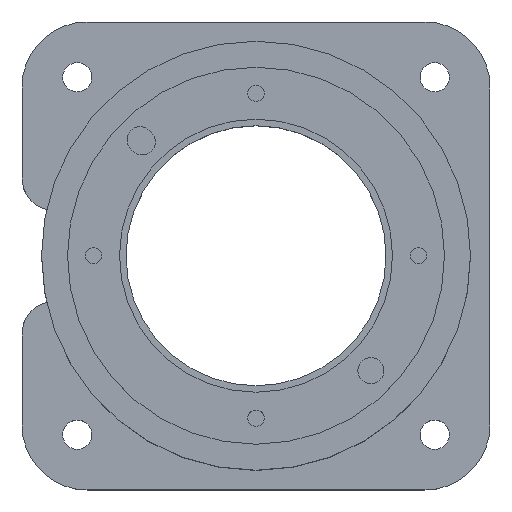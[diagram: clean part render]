
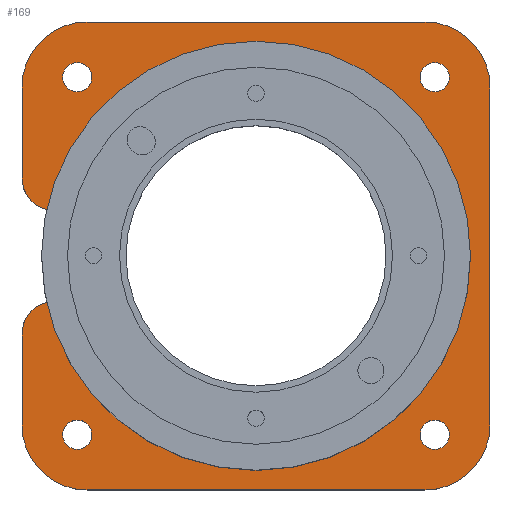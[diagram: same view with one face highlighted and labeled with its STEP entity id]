
A CAD part, top view. The second image highlights one B-rep face of the part: STEP entity #169.
In plain terms, the highlighted planar face has unit normal (0, 0, 1).
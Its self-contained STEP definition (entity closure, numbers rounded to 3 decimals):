
#169=ADVANCED_FACE('',(#318,#319,#320,#321,#322),#246,.F.);
#246=PLANE('',#1367);
#318=FACE_BOUND('',#445,.T.);
#319=FACE_BOUND('',#446,.T.);
#320=FACE_BOUND('',#447,.T.);
#321=FACE_BOUND('',#448,.T.);
#322=FACE_BOUND('',#449,.T.);
#445=EDGE_LOOP('',(#742));
#446=EDGE_LOOP('',(#743));
#447=EDGE_LOOP('',(#744));
#448=EDGE_LOOP('',(#745));
#449=EDGE_LOOP('',(#746,#747,#748,#749,#750,#751,#752,#753,#754,#755,#756,
#757));
#549=LINE('',#2145,#597);
#566=LINE('',#2269,#614);
#567=LINE('',#2273,#615);
#568=LINE('',#2277,#616);
#569=LINE('',#2281,#617);
#597=VECTOR('',#1479,1.);
#614=VECTOR('',#1626,1.);
#615=VECTOR('',#1629,1.);
#616=VECTOR('',#1632,1.);
#617=VECTOR('',#1635,1.);
#742=ORIENTED_EDGE('',*,*,#1116,.F.);
#743=ORIENTED_EDGE('',*,*,#1117,.F.);
#744=ORIENTED_EDGE('',*,*,#1118,.F.);
#745=ORIENTED_EDGE('',*,*,#1119,.F.);
#746=ORIENTED_EDGE('',*,*,#1074,.T.);
#747=ORIENTED_EDGE('',*,*,#1120,.T.);
#748=ORIENTED_EDGE('',*,*,#1121,.F.);
#749=ORIENTED_EDGE('',*,*,#1122,.F.);
#750=ORIENTED_EDGE('',*,*,#1123,.F.);
#751=ORIENTED_EDGE('',*,*,#1124,.F.);
#752=ORIENTED_EDGE('',*,*,#1125,.F.);
#753=ORIENTED_EDGE('',*,*,#1126,.F.);
#754=ORIENTED_EDGE('',*,*,#1127,.F.);
#755=ORIENTED_EDGE('',*,*,#1128,.F.);
#756=ORIENTED_EDGE('',*,*,#1070,.F.);
#757=ORIENTED_EDGE('',*,*,#1129,.T.);
#953=VERTEX_POINT('',#2144);
#954=VERTEX_POINT('',#2146);
#956=VERTEX_POINT('',#2152);
#957=VERTEX_POINT('',#2154);
#991=VERTEX_POINT('',#2260);
#992=VERTEX_POINT('',#2262);
#993=VERTEX_POINT('',#2264);
#994=VERTEX_POINT('',#2266);
#995=VERTEX_POINT('',#2268);
#996=VERTEX_POINT('',#2270);
#997=VERTEX_POINT('',#2272);
#998=VERTEX_POINT('',#2274);
#999=VERTEX_POINT('',#2276);
#1000=VERTEX_POINT('',#2278);
#1001=VERTEX_POINT('',#2280);
#1002=VERTEX_POINT('',#2282);
#1070=EDGE_CURVE('',#953,#954,#549,.T.);
#1074=EDGE_CURVE('',#957,#956,#1207,.T.);
#1116=EDGE_CURVE('',#991,#991,#1235,.T.);
#1117=EDGE_CURVE('',#992,#992,#1236,.T.);
#1118=EDGE_CURVE('',#993,#993,#1237,.T.);
#1119=EDGE_CURVE('',#994,#994,#1238,.T.);
#1120=EDGE_CURVE('',#956,#995,#1239,.T.);
#1121=EDGE_CURVE('',#996,#995,#566,.T.);
#1122=EDGE_CURVE('',#997,#996,#1240,.T.);
#1123=EDGE_CURVE('',#998,#997,#567,.T.);
#1124=EDGE_CURVE('',#999,#998,#1241,.T.);
#1125=EDGE_CURVE('',#1000,#999,#568,.T.);
#1126=EDGE_CURVE('',#1001,#1000,#1242,.T.);
#1127=EDGE_CURVE('',#1002,#1001,#569,.T.);
#1128=EDGE_CURVE('',#954,#1002,#1243,.T.);
#1129=EDGE_CURVE('',#953,#957,#1244,.T.);
#1207=CIRCLE('',#1299,32.75);
#1235=CIRCLE('',#1357,2.25);
#1236=CIRCLE('',#1358,2.25);
#1237=CIRCLE('',#1359,2.25);
#1238=CIRCLE('',#1360,2.25);
#1239=CIRCLE('',#1361,5.);
#1240=CIRCLE('',#1362,10.);
#1241=CIRCLE('',#1363,10.);
#1242=CIRCLE('',#1364,10.);
#1243=CIRCLE('',#1365,10.);
#1244=CIRCLE('',#1366,5.);
#1299=AXIS2_PLACEMENT_3D('',#2153,#1486,#1487);
#1357=AXIS2_PLACEMENT_3D('',#2259,#1616,#1617);
#1358=AXIS2_PLACEMENT_3D('',#2261,#1618,#1619);
#1359=AXIS2_PLACEMENT_3D('',#2263,#1620,#1621);
#1360=AXIS2_PLACEMENT_3D('',#2265,#1622,#1623);
#1361=AXIS2_PLACEMENT_3D('',#2267,#1624,#1625);
#1362=AXIS2_PLACEMENT_3D('',#2271,#1627,#1628);
#1363=AXIS2_PLACEMENT_3D('',#2275,#1630,#1631);
#1364=AXIS2_PLACEMENT_3D('',#2279,#1633,#1634);
#1365=AXIS2_PLACEMENT_3D('',#2283,#1636,#1637);
#1366=AXIS2_PLACEMENT_3D('',#2284,#1638,#1639);
#1367=AXIS2_PLACEMENT_3D('',#2285,#1640,#1641);
#1479=DIRECTION('',(0.,1.,0.));
#1486=DIRECTION('',(0.,0.,-1.));
#1487=DIRECTION('',(-1.,0.,0.));
#1616=DIRECTION('',(0.,0.,1.));
#1617=DIRECTION('',(1.,0.,0.));
#1618=DIRECTION('',(0.,0.,1.));
#1619=DIRECTION('',(1.,0.,0.));
#1620=DIRECTION('',(0.,0.,1.));
#1621=DIRECTION('',(1.,0.,0.));
#1622=DIRECTION('',(0.,0.,1.));
#1623=DIRECTION('',(1.,0.,0.));
#1624=DIRECTION('',(0.,0.,1.));
#1625=DIRECTION('',(-1.,0.,0.));
#1626=DIRECTION('',(0.,1.,0.));
#1627=DIRECTION('',(0.,0.,-1.));
#1628=DIRECTION('',(-1.,0.,0.));
#1629=DIRECTION('',(-1.,0.,0.));
#1630=DIRECTION('',(0.,0.,-1.));
#1631=DIRECTION('',(-1.,0.,0.));
#1632=DIRECTION('',(0.,-1.,0.));
#1633=DIRECTION('',(0.,0.,-1.));
#1634=DIRECTION('',(-1.,0.,0.));
#1635=DIRECTION('',(1.,0.,0.));
#1636=DIRECTION('',(0.,0.,-1.));
#1637=DIRECTION('',(-1.,0.,0.));
#1638=DIRECTION('',(0.,0.,1.));
#1639=DIRECTION('',(-1.,0.,0.));
#1640=DIRECTION('',(0.,0.,-1.));
#1641=DIRECTION('',(-1.,0.,0.));
#2144=CARTESIAN_POINT('',(-36.,12.,-24.));
#2145=CARTESIAN_POINT('',(-36.,-26.,-24.));
#2146=CARTESIAN_POINT('',(-36.,26.,-24.));
#2152=CARTESIAN_POINT('',(-31.972,-7.095,-24.));
#2153=CARTESIAN_POINT('',(0.,0.,-24.));
#2154=CARTESIAN_POINT('',(-31.972,7.095,-24.));
#2259=CARTESIAN_POINT('',(27.5,27.5,-24.));
#2260=CARTESIAN_POINT('',(29.75,27.5,-24.));
#2261=CARTESIAN_POINT('',(27.5,-27.5,-24.));
#2262=CARTESIAN_POINT('',(29.75,-27.5,-24.));
#2263=CARTESIAN_POINT('',(-27.5,-27.5,-24.));
#2264=CARTESIAN_POINT('',(-25.25,-27.5,-24.));
#2265=CARTESIAN_POINT('',(-27.5,27.5,-24.));
#2266=CARTESIAN_POINT('',(-25.25,27.5,-24.));
#2267=CARTESIAN_POINT('',(-31.,-12.,-24.));
#2268=CARTESIAN_POINT('',(-36.,-12.,-24.));
#2269=CARTESIAN_POINT('',(-36.,-26.,-24.));
#2270=CARTESIAN_POINT('',(-36.,-26.,-24.));
#2271=CARTESIAN_POINT('',(-26.,-26.,-24.));
#2272=CARTESIAN_POINT('',(-26.,-36.,-24.));
#2273=CARTESIAN_POINT('',(26.,-36.,-24.));
#2274=CARTESIAN_POINT('',(26.,-36.,-24.));
#2275=CARTESIAN_POINT('',(26.,-26.,-24.));
#2276=CARTESIAN_POINT('',(36.,-26.,-24.));
#2277=CARTESIAN_POINT('',(36.,26.,-24.));
#2278=CARTESIAN_POINT('',(36.,26.,-24.));
#2279=CARTESIAN_POINT('',(26.,26.,-24.));
#2280=CARTESIAN_POINT('',(26.,36.,-24.));
#2281=CARTESIAN_POINT('',(-26.,36.,-24.));
#2282=CARTESIAN_POINT('',(-26.,36.,-24.));
#2283=CARTESIAN_POINT('',(-26.,26.,-24.));
#2284=CARTESIAN_POINT('',(-31.,12.,-24.));
#2285=CARTESIAN_POINT('',(-26.,-26.,-24.));
